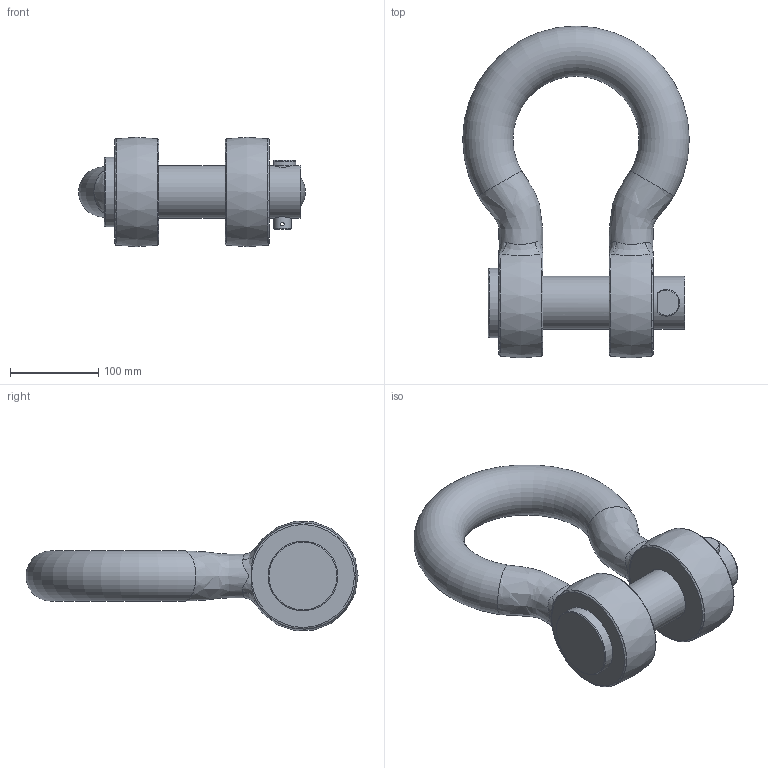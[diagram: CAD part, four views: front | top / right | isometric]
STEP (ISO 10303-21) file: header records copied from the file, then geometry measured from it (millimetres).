
FILE_DESCRIPTION(/* description */ (''),/* implementation_level */ '2;1');
FILE_NAME(/* name */ 'C:\Users\D\Documents\Inventor\HP\吊具\シャックル\BA_2\ba_50.stp',/* time_stamp */ '2024-11-20T10:45:06+09:00',/* author */ ('D'),/* organization */ (''),/* preprocessor_version */ 'ST-DEVELOPER v18',/* originating_system */ 'Autodesk Inventor 2020',/* authorisation */ '');
FILE_SCHEMA (('AUTOMOTIVE_DESIGN { 1 0 10303 214 3 1 1 }'));
Length unit declared in the file: millimetre
Products named in the file (4): ba_50; ba_6; ba-sa_pin1_34; ba-sa_pin2_34
Assembly tree (3 placements, depth 2):
  ba_50
    ba_6
    ba-sa_pin1_34
    ba-sa_pin2_34
Bounding box: 257 x 376.5 x 123.99 mm (x, y, z)
Volume: 2982312.5 mm3; surface area: 261294.5 mm2
Topology: 5 solids, 5 shells, 44 faces, 124 edges, 84 vertices
Faces by surface type: plane 15, bspline 12, torus 9, cylinder 8
Full cylindrical faces by diameter (mm): 4 x1, 20 x1, 21 x1, 60 x1, 62 x2, 79 x1
Entity records: 3334 total; most frequent: CARTESIAN_POINT 2104, ORIENTED_EDGE 236, DIRECTION 227, EDGE_CURVE 118, AXIS2_PLACEMENT_3D 107, VERTEX_POINT 84, CIRCLE 68, EDGE_LOOP 52
